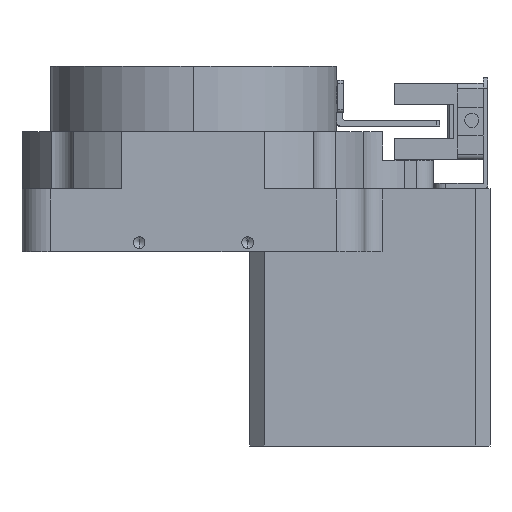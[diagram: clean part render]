
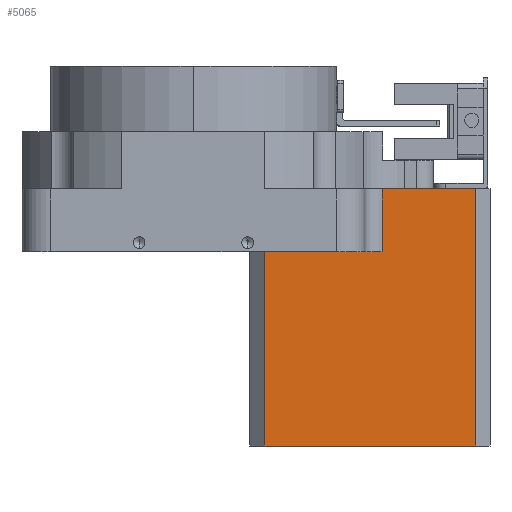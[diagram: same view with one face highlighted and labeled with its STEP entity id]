
A CAD part, left-side view. The second image highlights one B-rep face of the part: STEP entity #5065.
In plain terms, the highlighted planar face has unit normal (-1, 0, 0).
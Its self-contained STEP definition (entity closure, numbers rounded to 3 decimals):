
#102 = LINE ( 'NONE', #8299, #3926 ) ;
#121 = ORIENTED_EDGE ( 'NONE', *, *, #7580, .T. ) ;
#271 = FACE_OUTER_BOUND ( 'NONE', #1747, .T. ) ;
#313 = CARTESIAN_POINT ( 'NONE',  ( -88.935, -24.98, 33.25 ) ) ;
#367 = DIRECTION ( 'NONE',  ( 0., 1., 0. ) ) ;
#410 = EDGE_CURVE ( 'NONE', #920, #3191, #102, .T. ) ;
#920 = VERTEX_POINT ( 'NONE', #4880 ) ;
#990 = ORIENTED_EDGE ( 'NONE', *, *, #8019, .T. ) ;
#1321 = LINE ( 'NONE', #4578, #2959 ) ;
#1355 = AXIS2_PLACEMENT_3D ( 'NONE', #2839, #6087, #5375 ) ;
#1528 = VECTOR ( 'NONE', #6719, 1000. ) ;
#1688 = LINE ( 'NONE', #7450, #5585 ) ;
#1722 = VERTEX_POINT ( 'NONE', #6002 ) ;
#1736 = CARTESIAN_POINT ( 'NONE',  ( -88.935, -4.38, -33.25 ) ) ;
#1741 = ORIENTED_EDGE ( 'NONE', *, *, #6526, .F. ) ;
#1747 = EDGE_LOOP ( 'NONE', ( #1741, #990, #121, #2971, #3062, #6968 ) ) ;
#1866 = VERTEX_POINT ( 'NONE', #1736 ) ;
#1999 = DIRECTION ( 'NONE',  ( 0., 1., 0. ) ) ;
#2601 = VECTOR ( 'NONE', #2880, 1000. ) ;
#2621 = DIRECTION ( 'NONE',  ( 0., 0., -1. ) ) ;
#2839 = CARTESIAN_POINT ( 'NONE',  ( -88.935, -24.98, 33.25 ) ) ;
#2880 = DIRECTION ( 'NONE',  ( 0., 0., -1. ) ) ;
#2959 = VECTOR ( 'NONE', #1999, 1000. ) ;
#2971 = ORIENTED_EDGE ( 'NONE', *, *, #8097, .F. ) ;
#3062 = ORIENTED_EDGE ( 'NONE', *, *, #3676, .F. ) ;
#3191 = VERTEX_POINT ( 'NONE', #3680 ) ;
#3251 = VERTEX_POINT ( 'NONE', #8256 ) ;
#3676 = EDGE_CURVE ( 'NONE', #3191, #1866, #1321, .T. ) ;
#3680 = CARTESIAN_POINT ( 'NONE',  ( -88.935, -41.38, -33.25 ) ) ;
#3723 = CARTESIAN_POINT ( 'NONE',  ( -88.935, -24.98, 11.75 ) ) ;
#3926 = VECTOR ( 'NONE', #2621, 1000. ) ;
#4161 = PLANE ( 'NONE',  #1355 ) ;
#4578 = CARTESIAN_POINT ( 'NONE',  ( -88.935, -4.38, -33.25 ) ) ;
#4829 = LINE ( 'NONE', #313, #2601 ) ;
#4880 = CARTESIAN_POINT ( 'NONE',  ( -88.935, -41.38, 11.75 ) ) ;
#5065 = ADVANCED_FACE ( 'NONE', ( #271 ), #4161, .F. ) ;
#5375 = DIRECTION ( 'NONE',  ( 0., 1., 0. ) ) ;
#5404 = DIRECTION ( 'NONE',  ( 0., -1., 0. ) ) ;
#5543 = CARTESIAN_POINT ( 'NONE',  ( -88.935, -4.38, -33.25 ) ) ;
#5585 = VECTOR ( 'NONE', #5404, 1000. ) ;
#6002 = CARTESIAN_POINT ( 'NONE',  ( -88.935, -4.38, 0.75 ) ) ;
#6087 = DIRECTION ( 'NONE',  ( 1., 0., 0. ) ) ;
#6116 = VECTOR ( 'NONE', #367, 1000. ) ;
#6131 = LINE ( 'NONE', #5543, #1528 ) ;
#6147 = LINE ( 'NONE', #6263, #6116 ) ;
#6263 = CARTESIAN_POINT ( 'NONE',  ( -88.935, -4.38, 0.75 ) ) ;
#6340 = VERTEX_POINT ( 'NONE', #3723 ) ;
#6526 = EDGE_CURVE ( 'NONE', #6340, #920, #1688, .T. ) ;
#6719 = DIRECTION ( 'NONE',  ( 0., 0., 1. ) ) ;
#6968 = ORIENTED_EDGE ( 'NONE', *, *, #410, .F. ) ;
#7450 = CARTESIAN_POINT ( 'NONE',  ( -88.935, -24.98, 11.75 ) ) ;
#7580 = EDGE_CURVE ( 'NONE', #3251, #1722, #6147, .T. ) ;
#8019 = EDGE_CURVE ( 'NONE', #6340, #3251, #4829, .T. ) ;
#8097 = EDGE_CURVE ( 'NONE', #1866, #1722, #6131, .T. ) ;
#8256 = CARTESIAN_POINT ( 'NONE',  ( -88.935, -24.98, 0.75 ) ) ;
#8299 = CARTESIAN_POINT ( 'NONE',  ( -88.935, -41.38, 33.25 ) ) ;
